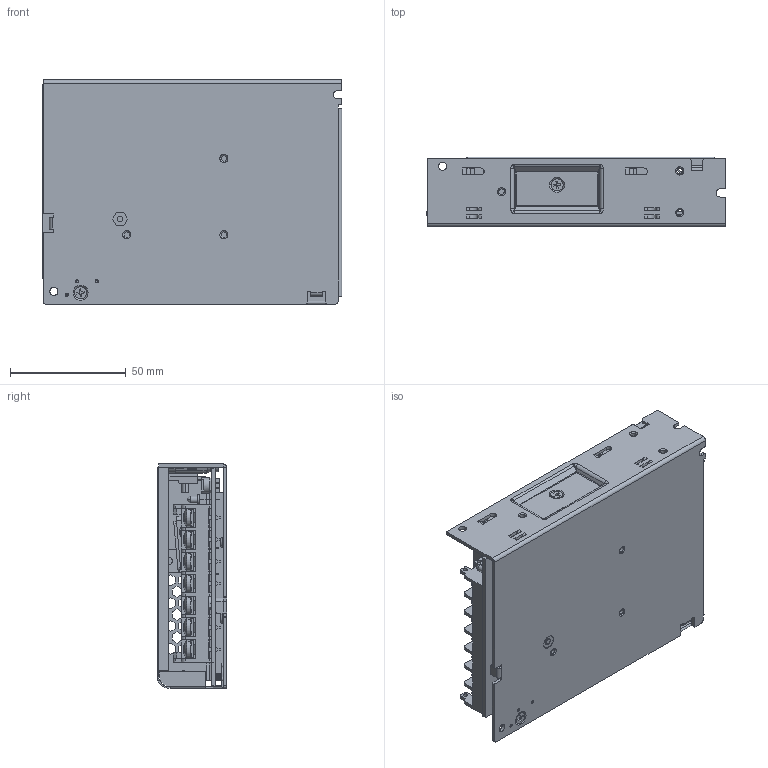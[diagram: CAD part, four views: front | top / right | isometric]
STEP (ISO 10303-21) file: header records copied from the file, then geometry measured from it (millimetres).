
FILE_DESCRIPTION (( 'STEP AP214' ), '1' );
FILE_NAME ('LBA100.STEP', '2025-12-17T08:35:26', ( '' ), ( '' ), 'SwSTEP 2.0', 'SolidWorks 2024', '' );
FILE_SCHEMA (( 'AUTOMOTIVE_DESIGN' ));
Length unit declared in the file: millimetre
Products named in the file (1): LBA100
Bounding box: 129.61 x 30 x 97 mm (x, y, z)
Volume: 61372.3 mm3; surface area: 101140.9 mm2
Topology: 36 solids, 36 shells, 4207 faces, 11750 edges, 7603 vertices
Faces by surface type: plane 3362, cylinder 480, bspline 150, cone 116, torus 73, sphere 26
Entity records: 137806 total; most frequent: CARTESIAN_POINT 28380, ORIENTED_EDGE 23494, DIRECTION 20573, EDGE_CURVE 11747, VECTOR 9833, LINE 9833, VERTEX_POINT 7602, AXIS2_PLACEMENT_3D 5370
